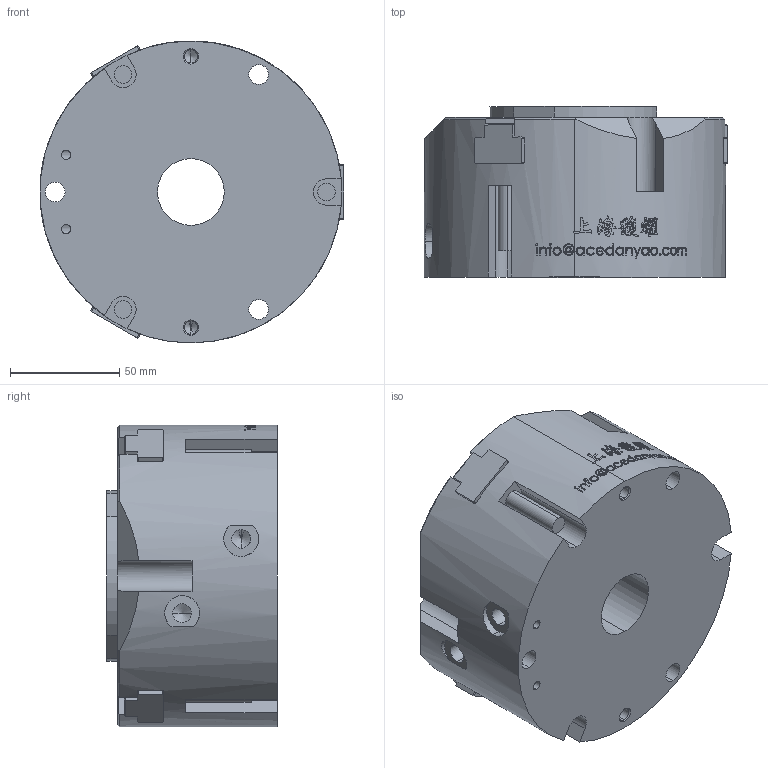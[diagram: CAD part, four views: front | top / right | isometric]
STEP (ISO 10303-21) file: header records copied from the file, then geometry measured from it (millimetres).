
FILE_DESCRIPTION (( 'STEP AP203' ), '1' );
FILE_NAME ('MFB140-原始檔-組合-W104.04.14.STEP', '2017-04-14T08:45:15', ( 'DanyaoCAD' ), ( '' ), 'SwSTEP 2.0', 'SolidWorks 2016', '' );
FILE_SCHEMA (( 'CONFIG_CONTROL_DESIGN' ));
Length unit declared in the file: millimetre
Products named in the file (4): Griffa; Coperchio; Corpo; MFB140-原始檔-組合-W104.04.14
Assembly tree (5 placements, depth 2):
  MFB140-原始檔-組合-W104.04.14
    Griffa  x3
    Coperchio
    Corpo
Bounding box: 138.96 x 78 x 138 mm (x, y, z)
Volume: 982423.9 mm3; surface area: 114657.7 mm2
Topology: 5 solids, 5 shells, 1063 faces, 2944 edges, 1947 vertices
Faces by surface type: bspline 665, plane 248, cylinder 125, cone 25
Entity records: 101472 total; most frequent: CARTESIAN_POINT 81700, ORIENTED_EDGE 5484, EDGE_CURVE 2742, B_SPLINE_CURVE_WITH_KNOTS 2076, VERTEX_POINT 1823, DIRECTION 1511, EDGE_LOOP 1055, FACE_OUTER_BOUND 983
